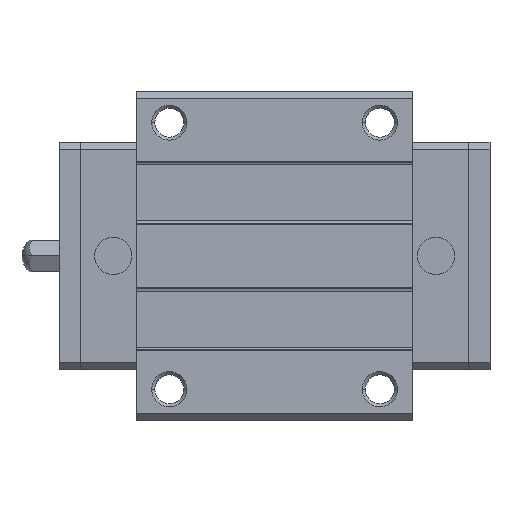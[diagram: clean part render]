
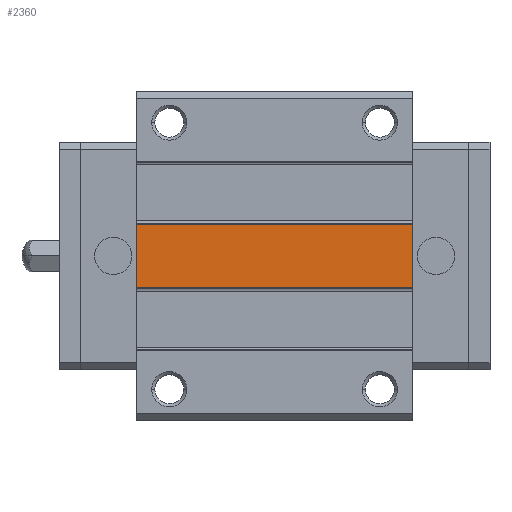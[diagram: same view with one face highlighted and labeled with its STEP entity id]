
A CAD part, top view. The second image highlights one B-rep face of the part: STEP entity #2360.
In plain terms, the highlighted planar face has unit normal (0, 0, 1).
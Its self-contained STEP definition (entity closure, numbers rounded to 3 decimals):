
#2299=CARTESIAN_POINT('POINT153',(50.4,-4.5,19.7));
#2300=VERTEX_POINT('VERTEX153',#2299);
#2307=CARTESIAN_POINT('POINT154',(11.,-4.5,19.7));
#2308=VERTEX_POINT('VERTEX154',#2307);
#2309=CARTESIAN_POINT('POS229',(11.,-4.5,19.7));
#2310=DIRECTION('DIR330',(1.,0.,0.));
#2311=VECTOR('VEC128',#2310,1.);
#2312=LINE('STRAIGHT128',#2309,#2311);
#2313=EDGE_CURVE('EDGE226',#2308,#2300,#2312,.T.);
#2330=CARTESIAN_POINT('POINT155',(50.4,4.5,19.7));
#2331=VERTEX_POINT('VERTEX155',#2330);
#2332=CARTESIAN_POINT('POS232',(50.4,-4.5,19.7));
#2333=DIRECTION('DIR334',(0.,1.,0.));
#2334=VECTOR('VEC130',#2333,1.);
#2335=LINE('STRAIGHT130',#2332,#2334);
#2336=EDGE_CURVE('EDGE228',#2300,#2331,#2335,.T.);
#2337=ORIENTED_EDGE('COEDGE388',*,*,#2336,.T.);
#2338=CARTESIAN_POINT('POINT156',(11.,4.5,19.7));
#2339=VERTEX_POINT('VERTEX156',#2338);
#2340=CARTESIAN_POINT('POS233',(11.,4.5,19.7));
#2341=DIRECTION('DIR335',(1.,0.,0.));
#2342=VECTOR('VEC131',#2341,1.);
#2343=LINE('STRAIGHT131',#2340,#2342);
#2344=EDGE_CURVE('EDGE229',#2339,#2331,#2343,.T.);
#2345=ORIENTED_EDGE('COEDGE389',*,*,#2344,.F.);
#2346=CARTESIAN_POINT('POS234',(11.,-4.5,19.7));
#2347=DIRECTION('DIR336',(0.,1.,0.));
#2348=VECTOR('VEC132',#2347,1.);
#2349=LINE('STRAIGHT132',#2346,#2348);
#2350=EDGE_CURVE('EDGE230',#2308,#2339,#2349,.T.);
#2351=ORIENTED_EDGE('COEDGE390',*,*,#2350,.F.);
#2352=ORIENTED_EDGE('COEDGE391',*,*,#2313,.T.);
#2353=EDGE_LOOP('NONE',(#2337,#2345,#2351,#2352));
#2354=FACE_BOUND('LOOP1',#2353,.T.);
#2355=CARTESIAN_POINT('POS235',(11.,-4.5,19.7));
#2356=DIRECTION('DIR337',(0.,0.,1.));
#2357=DIRECTION('DIR338',(1.,0.,0.));
#2358=AXIS2_PLACEMENT_3D('AXIS103',#2355,#2356,#2357);
#2359=PLANE('PLANE27',#2358);
#2360=ADVANCED_FACE('FACE76',(#2354),#2359,.T.);
